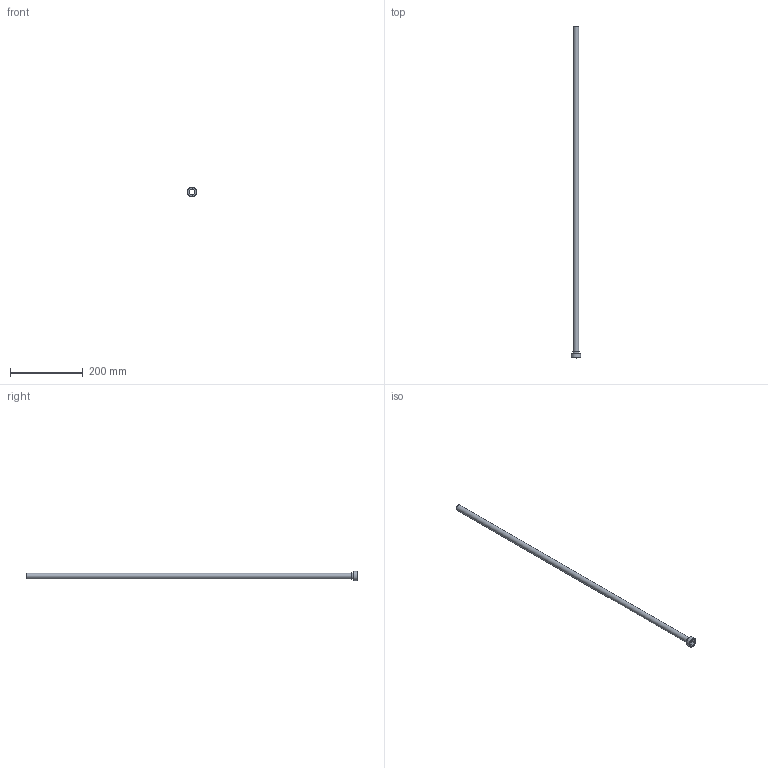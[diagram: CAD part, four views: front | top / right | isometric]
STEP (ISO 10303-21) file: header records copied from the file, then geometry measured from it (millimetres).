
FILE_DESCRIPTION(/* description */ (''),/* implementation_level */ '2;1');
FILE_NAME(/* name */ 'C:/Users/drich/Desktop/PT34-625-36 v1.step',/* time_stamp */ '2019-12-27T15:51:17-06:00',/* author */ (''),/* organization */ (''),/* preprocessor_version */ 'ST-DEVELOPER v18',/* originating_system */ 'Autodesk Translation Framework v8.12.0.6',/* authorisation */ '');
FILE_SCHEMA (('AUTOMOTIVE_DESIGN { 1 0 10303 214 3 1 1 }'));
Length unit declared in the file: inch
Products named in the file (1): PT34-625-36
Bounding box: 26.3 x 914.4 x 26.3 mm (x, y, z)
Volume: 34956.7 mm3; surface area: 88229.5 mm2
Topology: 1 solids, 1 shells, 19 faces, 48 edges, 34 vertices
Faces by surface type: plane 11, cylinder 4, torus 2, cone 2
Full cylindrical faces by diameter (mm): 14.453 x1, 15.85 x1, 19.05 x1, 26.299 x1
Entity records: 633 total; most frequent: DIRECTION 112, CARTESIAN_POINT 102, ORIENTED_EDGE 96, EDGE_CURVE 48, AXIS2_PLACEMENT_3D 44, VERTEX_POINT 34, CIRCLE 24, EDGE_LOOP 24
